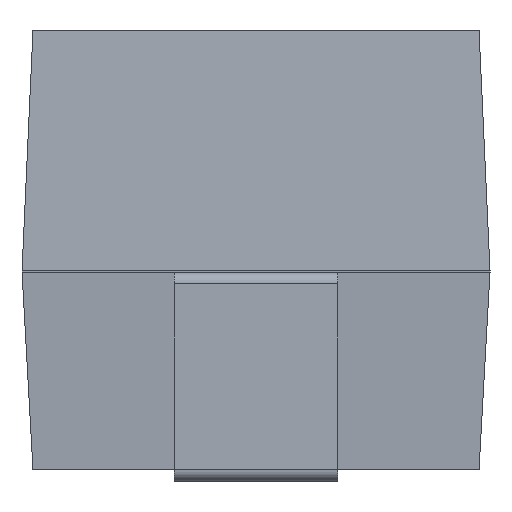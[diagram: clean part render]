
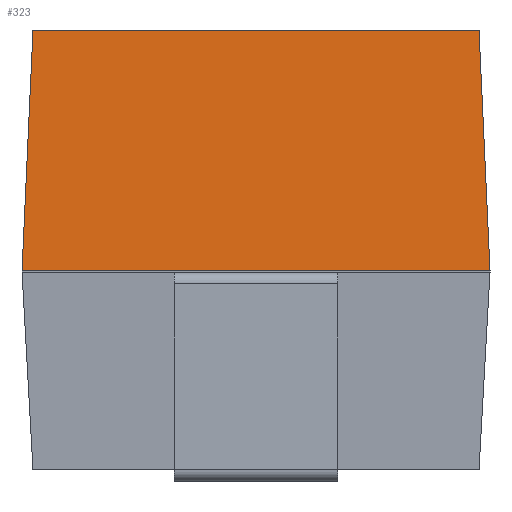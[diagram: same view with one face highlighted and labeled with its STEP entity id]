
A CAD part, left-side view. The second image highlights one B-rep face of the part: STEP entity #323.
In plain terms, the highlighted planar face has unit normal (-0.999, 0, 0.046).
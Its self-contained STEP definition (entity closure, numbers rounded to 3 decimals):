
#43 = VERTEX_POINT('',#44);
#44 = CARTESIAN_POINT('',(-3.85,-2.,1.798));
#51 = PLANE('',#52);
#52 = AXIS2_PLACEMENT_3D('',#53,#54,#55);
#53 = CARTESIAN_POINT('',(-3.85,-2.,0.1));
#54 = DIRECTION('',(1.,0.,0.));
#55 = DIRECTION('',(0.,0.,1.));
#104 = VERTEX_POINT('',#105);
#105 = CARTESIAN_POINT('',(-3.85,2.,1.798));
#131 = EDGE_CURVE('',#43,#104,#132,.T.);
#132 = SURFACE_CURVE('',#133,(#137,#144),.PCURVE_S1.);
#133 = LINE('',#134,#135);
#134 = CARTESIAN_POINT('',(-3.85,-2.,1.798));
#135 = VECTOR('',#136,1.);
#136 = DIRECTION('',(0.,1.,0.));
#137 = PCURVE('',#51,#138);
#138 = DEFINITIONAL_REPRESENTATION('',(#139),#143);
#139 = LINE('',#140,#141);
#140 = CARTESIAN_POINT('',(1.698,0.));
#141 = VECTOR('',#142,1.);
#142 = DIRECTION('',(0.,-1.));
#143 = ( GEOMETRIC_REPRESENTATION_CONTEXT(2) 
PARAMETRIC_REPRESENTATION_CONTEXT() REPRESENTATION_CONTEXT('2D SPACE',''
  ) );
#144 = PCURVE('',#145,#150);
#145 = PLANE('',#146);
#146 = AXIS2_PLACEMENT_3D('',#147,#148,#149);
#147 = CARTESIAN_POINT('',(-3.803,-2.,2.824));
#148 = DIRECTION('',(0.999,0.,
    -0.046));
#149 = DIRECTION('',(0.,1.,0.));
#150 = DEFINITIONAL_REPRESENTATION('',(#151),#155);
#151 = LINE('',#152,#153);
#152 = CARTESIAN_POINT('',(0.,-1.027));
#153 = VECTOR('',#154,1.);
#154 = DIRECTION('',(1.,0.));
#155 = ( GEOMETRIC_REPRESENTATION_CONTEXT(2) 
PARAMETRIC_REPRESENTATION_CONTEXT() REPRESENTATION_CONTEXT('2D SPACE',''
  ) );
#231 = PLANE('',#232);
#232 = AXIS2_PLACEMENT_3D('',#233,#234,#235);
#233 = CARTESIAN_POINT('',(-3.85,-1.953,2.824));
#234 = DIRECTION('',(0.,0.999,
    -0.046));
#235 = DIRECTION('',(-1.,0.,0.));
#323 = ADVANCED_FACE('',(#324),#145,.F.);
#324 = FACE_BOUND('',#325,.F.);
#325 = EDGE_LOOP('',(#326,#349,#350,#378));
#326 = ORIENTED_EDGE('',*,*,#327,.F.);
#327 = EDGE_CURVE('',#43,#328,#330,.T.);
#328 = VERTEX_POINT('',#329);
#329 = CARTESIAN_POINT('',(-3.756,-1.906,3.85));
#330 = SURFACE_CURVE('',#331,(#335,#342),.PCURVE_S1.);
#331 = LINE('',#332,#333);
#332 = CARTESIAN_POINT('',(-3.803,-1.953,
    2.822));
#333 = VECTOR('',#334,1.);
#334 = DIRECTION('',(0.046,0.046,
    0.998));
#335 = PCURVE('',#145,#336);
#336 = DEFINITIONAL_REPRESENTATION('',(#337),#341);
#337 = LINE('',#338,#339);
#338 = CARTESIAN_POINT('',(0.047,-0.002));
#339 = VECTOR('',#340,1.);
#340 = DIRECTION('',(0.046,0.999));
#341 = ( GEOMETRIC_REPRESENTATION_CONTEXT(2) 
PARAMETRIC_REPRESENTATION_CONTEXT() REPRESENTATION_CONTEXT('2D SPACE',''
  ) );
#342 = PCURVE('',#231,#343);
#343 = DEFINITIONAL_REPRESENTATION('',(#344),#348);
#344 = LINE('',#345,#346);
#345 = CARTESIAN_POINT('',(-0.047,-0.002));
#346 = VECTOR('',#347,1.);
#347 = DIRECTION('',(-0.046,0.999));
#348 = ( GEOMETRIC_REPRESENTATION_CONTEXT(2) 
PARAMETRIC_REPRESENTATION_CONTEXT() REPRESENTATION_CONTEXT('2D SPACE',''
  ) );
#349 = ORIENTED_EDGE('',*,*,#131,.T.);
#350 = ORIENTED_EDGE('',*,*,#351,.T.);
#351 = EDGE_CURVE('',#104,#352,#354,.T.);
#352 = VERTEX_POINT('',#353);
#353 = CARTESIAN_POINT('',(-3.756,1.906,3.85));
#354 = SURFACE_CURVE('',#355,(#359,#366),.PCURVE_S1.);
#355 = LINE('',#356,#357);
#356 = CARTESIAN_POINT('',(-3.799,1.949,2.913
    ));
#357 = VECTOR('',#358,1.);
#358 = DIRECTION('',(0.046,-0.046,
    0.998));
#359 = PCURVE('',#145,#360);
#360 = DEFINITIONAL_REPRESENTATION('',(#361),#365);
#361 = LINE('',#362,#363);
#362 = CARTESIAN_POINT('',(3.949,0.089));
#363 = VECTOR('',#364,1.);
#364 = DIRECTION('',(-0.046,0.999));
#365 = ( GEOMETRIC_REPRESENTATION_CONTEXT(2) 
PARAMETRIC_REPRESENTATION_CONTEXT() REPRESENTATION_CONTEXT('2D SPACE',''
  ) );
#366 = PCURVE('',#367,#372);
#367 = PLANE('',#368);
#368 = AXIS2_PLACEMENT_3D('',#369,#370,#371);
#369 = CARTESIAN_POINT('',(-3.85,1.953,2.824));
#370 = DIRECTION('',(0.,0.999,
    0.046));
#371 = DIRECTION('',(-1.,0.,0.));
#372 = DEFINITIONAL_REPRESENTATION('',(#373),#377);
#373 = LINE('',#374,#375);
#374 = CARTESIAN_POINT('',(-0.051,0.089));
#375 = VECTOR('',#376,1.);
#376 = DIRECTION('',(-0.046,0.999));
#377 = ( GEOMETRIC_REPRESENTATION_CONTEXT(2) 
PARAMETRIC_REPRESENTATION_CONTEXT() REPRESENTATION_CONTEXT('2D SPACE',''
  ) );
#378 = ORIENTED_EDGE('',*,*,#379,.F.);
#379 = EDGE_CURVE('',#328,#352,#380,.T.);
#380 = SURFACE_CURVE('',#381,(#385,#392),.PCURVE_S1.);
#381 = LINE('',#382,#383);
#382 = CARTESIAN_POINT('',(-3.756,-2.,3.85));
#383 = VECTOR('',#384,1.);
#384 = DIRECTION('',(0.,1.,0.));
#385 = PCURVE('',#145,#386);
#386 = DEFINITIONAL_REPRESENTATION('',(#387),#391);
#387 = LINE('',#388,#389);
#388 = CARTESIAN_POINT('',(0.,1.027));
#389 = VECTOR('',#390,1.);
#390 = DIRECTION('',(1.,0.));
#391 = ( GEOMETRIC_REPRESENTATION_CONTEXT(2) 
PARAMETRIC_REPRESENTATION_CONTEXT() REPRESENTATION_CONTEXT('2D SPACE',''
  ) );
#392 = PCURVE('',#393,#398);
#393 = PLANE('',#394);
#394 = AXIS2_PLACEMENT_3D('',#395,#396,#397);
#395 = CARTESIAN_POINT('',(-3.85,-2.,3.85));
#396 = DIRECTION('',(0.,0.,1.));
#397 = DIRECTION('',(1.,0.,0.));
#398 = DEFINITIONAL_REPRESENTATION('',(#399),#403);
#399 = LINE('',#400,#401);
#400 = CARTESIAN_POINT('',(0.094,0.));
#401 = VECTOR('',#402,1.);
#402 = DIRECTION('',(0.,1.));
#403 = ( GEOMETRIC_REPRESENTATION_CONTEXT(2) 
PARAMETRIC_REPRESENTATION_CONTEXT() REPRESENTATION_CONTEXT('2D SPACE',''
  ) );
